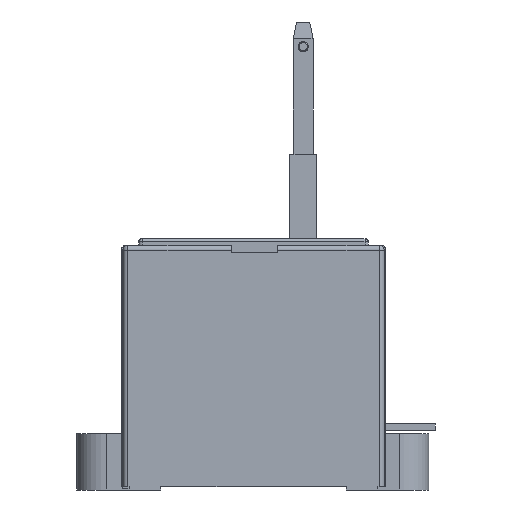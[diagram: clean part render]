
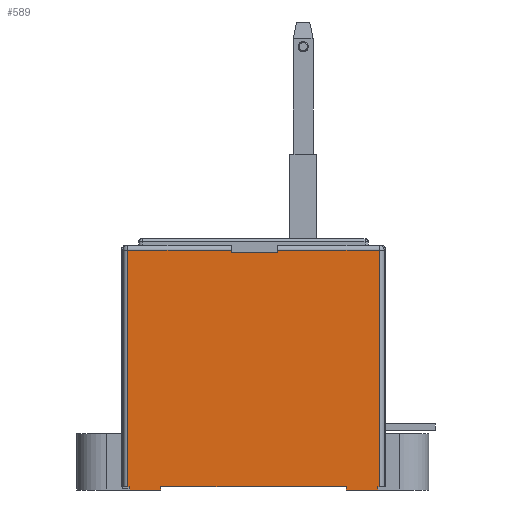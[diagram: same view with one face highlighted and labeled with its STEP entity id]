
A CAD part, left-side view. The second image highlights one B-rep face of the part: STEP entity #589.
In plain terms, the highlighted planar face has unit normal (-1, 0, 0).
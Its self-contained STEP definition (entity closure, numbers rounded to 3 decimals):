
#589=ADVANCED_FACE('',(#1186),#958,.F.);
#958=PLANE('',#6900);
#1186=FACE_OUTER_BOUND('',#1536,.T.);
#1536=EDGE_LOOP('',(#2371,#2372,#2373,#2374,#2375,#2376,#2377,#2378,#2379,
#2380,#2381,#2382,#2383,#2384,#2385,#2386));
#2371=ORIENTED_EDGE('',*,*,#4777,.F.);
#2372=ORIENTED_EDGE('',*,*,#4778,.T.);
#2373=ORIENTED_EDGE('',*,*,#4779,.T.);
#2374=ORIENTED_EDGE('',*,*,#4780,.F.);
#2375=ORIENTED_EDGE('',*,*,#4781,.T.);
#2376=ORIENTED_EDGE('',*,*,#4782,.T.);
#2377=ORIENTED_EDGE('',*,*,#4775,.T.);
#2378=ORIENTED_EDGE('',*,*,#4627,.T.);
#2379=ORIENTED_EDGE('',*,*,#4772,.F.);
#2380=ORIENTED_EDGE('',*,*,#4783,.F.);
#2381=ORIENTED_EDGE('',*,*,#4784,.T.);
#2382=ORIENTED_EDGE('',*,*,#4462,.T.);
#2383=ORIENTED_EDGE('',*,*,#4785,.F.);
#2384=ORIENTED_EDGE('',*,*,#4786,.F.);
#2385=ORIENTED_EDGE('',*,*,#4787,.T.);
#2386=ORIENTED_EDGE('',*,*,#4643,.T.);
#3852=VERTEX_POINT('',#9495);
#3853=VERTEX_POINT('',#9497);
#4009=VERTEX_POINT('',#9840);
#4010=VERTEX_POINT('',#9842);
#4021=VERTEX_POINT('',#9868);
#4024=VERTEX_POINT('',#9874);
#4104=VERTEX_POINT('',#10121);
#4106=VERTEX_POINT('',#10129);
#4107=VERTEX_POINT('',#10133);
#4108=VERTEX_POINT('',#10135);
#4109=VERTEX_POINT('',#10137);
#4110=VERTEX_POINT('',#10139);
#4111=VERTEX_POINT('',#10141);
#4112=VERTEX_POINT('',#10144);
#4113=VERTEX_POINT('',#10147);
#4114=VERTEX_POINT('',#10149);
#4462=EDGE_CURVE('',#3853,#3852,#5415,.T.);
#4627=EDGE_CURVE('',#4010,#4009,#5547,.T.);
#4643=EDGE_CURVE('',#4021,#4024,#5559,.T.);
#4772=EDGE_CURVE('',#4104,#4009,#5673,.T.);
#4775=EDGE_CURVE('',#4106,#4010,#5676,.T.);
#4777=EDGE_CURVE('',#4107,#4024,#5677,.T.);
#4778=EDGE_CURVE('',#4107,#4108,#5678,.T.);
#4779=EDGE_CURVE('',#4108,#4109,#5679,.T.);
#4780=EDGE_CURVE('',#4110,#4109,#5680,.T.);
#4781=EDGE_CURVE('',#4110,#4111,#5681,.T.);
#4782=EDGE_CURVE('',#4111,#4106,#5682,.T.);
#4783=EDGE_CURVE('',#4112,#4104,#5683,.T.);
#4784=EDGE_CURVE('',#4112,#3853,#5684,.T.);
#4785=EDGE_CURVE('',#4113,#3852,#5685,.T.);
#4786=EDGE_CURVE('',#4114,#4113,#5686,.T.);
#4787=EDGE_CURVE('',#4114,#4021,#5687,.T.);
#5415=LINE('',#9496,#6128);
#5547=LINE('',#9841,#6260);
#5559=LINE('',#9875,#6272);
#5673=LINE('',#10122,#6386);
#5676=LINE('',#10128,#6389);
#5677=LINE('',#10132,#6390);
#5678=LINE('',#10134,#6391);
#5679=LINE('',#10136,#6392);
#5680=LINE('',#10138,#6393);
#5681=LINE('',#10140,#6394);
#5682=LINE('',#10142,#6395);
#5683=LINE('',#10143,#6396);
#5684=LINE('',#10145,#6397);
#5685=LINE('',#10146,#6398);
#5686=LINE('',#10148,#6399);
#5687=LINE('',#10150,#6400);
#6128=VECTOR('',#7488,1.);
#6260=VECTOR('',#7732,1.);
#6272=VECTOR('',#7758,1.);
#6386=VECTOR('',#7978,1.);
#6389=VECTOR('',#7985,1.);
#6390=VECTOR('',#7990,1.);
#6391=VECTOR('',#7991,1.);
#6392=VECTOR('',#7992,1.);
#6393=VECTOR('',#7993,1.);
#6394=VECTOR('',#7994,1.);
#6395=VECTOR('',#7995,1.);
#6396=VECTOR('',#7996,1.);
#6397=VECTOR('',#7997,1.);
#6398=VECTOR('',#7998,1.);
#6399=VECTOR('',#7999,1.);
#6400=VECTOR('',#8000,1.);
#6900=AXIS2_PLACEMENT_3D('',#10151,#8001,#8002);
#7488=DIRECTION('',(0.,-1.,0.));
#7732=DIRECTION('',(0.,-1.,0.));
#7758=DIRECTION('',(0.,-1.,0.));
#7978=DIRECTION('',(0.,0.,1.));
#7985=DIRECTION('',(0.,0.,-1.));
#7990=DIRECTION('',(0.,0.,-1.));
#7991=DIRECTION('',(0.,1.,0.));
#7992=DIRECTION('',(0.,0.,-1.));
#7993=DIRECTION('',(0.,-1.,0.));
#7994=DIRECTION('',(0.,0.,1.));
#7995=DIRECTION('',(0.,1.,0.));
#7996=DIRECTION('',(0.,1.,0.));
#7997=DIRECTION('',(0.,0.,1.));
#7998=DIRECTION('',(0.,0.,1.));
#7999=DIRECTION('',(0.,1.,0.));
#8000=DIRECTION('',(0.,0.,1.));
#8001=DIRECTION('',(1.,0.,0.));
#8002=DIRECTION('',(0.,0.,-1.));
#9495=CARTESIAN_POINT('',(-66.,-28.,1.));
#9496=CARTESIAN_POINT('',(-66.,-37.5,1.));
#9497=CARTESIAN_POINT('',(-66.,28.,1.));
#9840=CARTESIAN_POINT('',(-66.,37.5,1.));
#9841=CARTESIAN_POINT('',(-66.,-37.5,1.));
#9842=CARTESIAN_POINT('',(-66.,38.,1.));
#9868=CARTESIAN_POINT('',(-66.,-37.5,1.));
#9874=CARTESIAN_POINT('',(-66.,-38.,1.));
#9875=CARTESIAN_POINT('',(-66.,-37.5,1.));
#10121=CARTESIAN_POINT('',(-66.,37.5,0.));
#10122=CARTESIAN_POINT('',(-66.,37.5,-1.));
#10128=CARTESIAN_POINT('',(-66.,38.,74.));
#10129=CARTESIAN_POINT('',(-66.,38.,72.5));
#10132=CARTESIAN_POINT('',(-66.,-38.,74.));
#10133=CARTESIAN_POINT('',(-66.,-38.,72.5));
#10134=CARTESIAN_POINT('',(-66.,38.,72.5));
#10135=CARTESIAN_POINT('',(-66.,-7.25,72.5));
#10136=CARTESIAN_POINT('',(-66.,-7.25,74.));
#10137=CARTESIAN_POINT('',(-66.,-7.25,71.9));
#10138=CARTESIAN_POINT('',(-66.,37.5,71.9));
#10139=CARTESIAN_POINT('',(-66.,6.75,71.9));
#10140=CARTESIAN_POINT('',(-66.,6.75,74.));
#10141=CARTESIAN_POINT('',(-66.,6.75,72.5));
#10142=CARTESIAN_POINT('',(-66.,38.,72.5));
#10143=CARTESIAN_POINT('',(-66.,28.,0.));
#10144=CARTESIAN_POINT('',(-66.,28.,0.));
#10145=CARTESIAN_POINT('',(-66.,28.,-1.));
#10146=CARTESIAN_POINT('',(-66.,-28.,-1.));
#10147=CARTESIAN_POINT('',(-66.,-28.,0.));
#10148=CARTESIAN_POINT('',(-66.,-37.5,0.));
#10149=CARTESIAN_POINT('',(-66.,-37.5,0.));
#10150=CARTESIAN_POINT('',(-66.,-37.5,-1.));
#10151=CARTESIAN_POINT('',(-66.,-37.5,74.));
